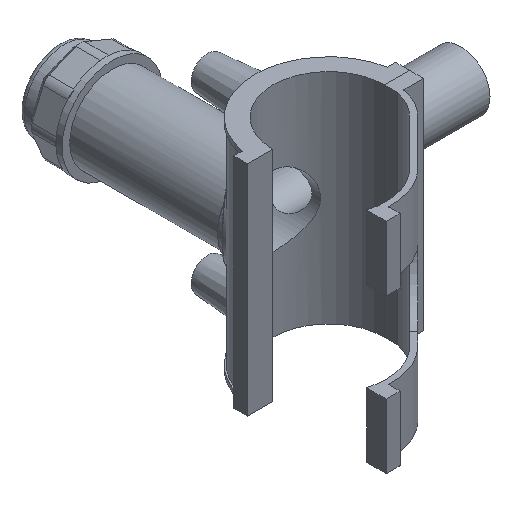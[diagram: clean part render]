
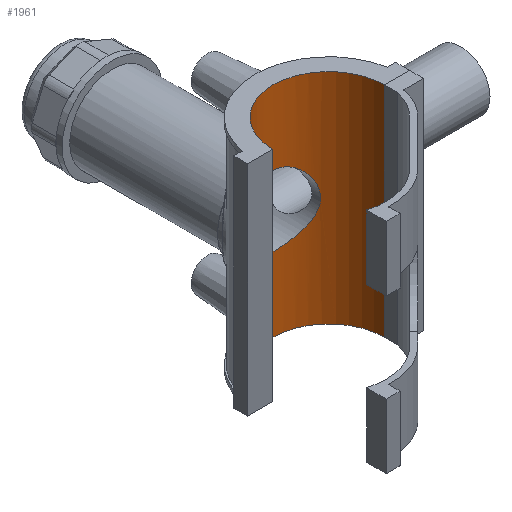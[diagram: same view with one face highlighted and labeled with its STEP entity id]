
A CAD part, isometric view. The second image highlights one B-rep face of the part: STEP entity #1961.
In plain terms, the highlighted cylindrical face has radius 25.55 mm (diameter 51.1 mm), a partial arc.
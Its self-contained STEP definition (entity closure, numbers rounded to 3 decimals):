
#51=FACE_BOUND('',#632,.T.);
#52=B_SPLINE_CURVE_WITH_KNOTS('',3,(#2806,#2807,#2808,#2809,#2810,#2811,
#2812,#2813,#2814,#2815,#2816,#2817,#2818,#2819,#2820,#2821,#2822,#2823,
#2824,#2825,#2826,#2827,#2828,#2829,#2830,#2831,#2832,#2833,#2834,#2835,
#2836,#2837,#2838,#2839,#2840,#2841,#2842,#2843,#2844,#2845,#2846,#2847,
#2848,#2849),.UNSPECIFIED.,.F.,.F.,(4,2,2,2,2,2,2,2,2,2,2,2,2,2,2,2,2,2,
2,2,2,4),(0.,0.315,0.631,1.261,1.574,
1.887,2.2,2.512,2.825,3.138,
3.45,3.763,4.394,4.709,5.024,
5.34,5.655,6.286,6.599,6.911,
7.224,7.537),.UNSPECIFIED.);
#53=B_SPLINE_CURVE_WITH_KNOTS('',3,(#2850,#2851,#2852,#2853,#2854,#2855,
#2856,#2857,#2858,#2859,#2860,#2861,#2862,#2863,#2864,#2865),
 .UNSPECIFIED.,.F.,.F.,(4,2,2,2,2,2,2,4),(7.537,7.849,
8.162,8.475,8.788,9.418,9.734,
10.049),.UNSPECIFIED.);
#179=LINE('',#3774,#336);
#180=LINE('',#3778,#337);
#336=VECTOR('',#2638,10.);
#337=VECTOR('',#2641,10.);
#420=CYLINDRICAL_SURFACE('',#2175,25.55);
#511=FACE_OUTER_BOUND('',#631,.T.);
#631=EDGE_LOOP('',(#1664,#1665,#1666,#1667));
#632=EDGE_LOOP('',(#1668,#1669));
#733=CIRCLE('',#2172,25.55);
#734=CIRCLE('',#2174,25.55);
#753=VERTEX_POINT('',#2803);
#754=VERTEX_POINT('',#2805);
#891=VERTEX_POINT('',#3768);
#893=VERTEX_POINT('',#3772);
#894=VERTEX_POINT('',#3776);
#895=VERTEX_POINT('',#3777);
#945=EDGE_CURVE('',#754,#753,#52,.T.);
#946=EDGE_CURVE('',#753,#754,#53,.T.);
#1154=EDGE_CURVE('',#891,#893,#179,.T.);
#1155=EDGE_CURVE('',#894,#895,#180,.T.);
#1161=EDGE_CURVE('',#891,#895,#733,.T.);
#1162=EDGE_CURVE('',#894,#893,#734,.T.);
#1664=ORIENTED_EDGE('',*,*,#1155,.T.);
#1665=ORIENTED_EDGE('',*,*,#1161,.F.);
#1666=ORIENTED_EDGE('',*,*,#1154,.T.);
#1667=ORIENTED_EDGE('',*,*,#1162,.F.);
#1668=ORIENTED_EDGE('',*,*,#945,.T.);
#1669=ORIENTED_EDGE('',*,*,#946,.T.);
#1961=ADVANCED_FACE('',(#511,#51),#420,.F.);
#2172=AXIS2_PLACEMENT_3D('',#3787,#2649,#2650);
#2174=AXIS2_PLACEMENT_3D('',#3789,#2653,#2654);
#2175=AXIS2_PLACEMENT_3D('',#3792,#2657,#2658);
#2638=DIRECTION('',(0.,0.,-1.));
#2641=DIRECTION('',(0.,0.,1.));
#2649=DIRECTION('center_axis',(0.,0.,-1.));
#2650=DIRECTION('ref_axis',(-1.,0.,0.));
#2653=DIRECTION('center_axis',(0.,0.,1.));
#2654=DIRECTION('ref_axis',(-1.,0.,0.));
#2657=DIRECTION('center_axis',(0.,0.,1.));
#2658=DIRECTION('ref_axis',(-1.,0.,0.));
#2803=CARTESIAN_POINT('',(0.,25.55,-16.097));
#2805=CARTESIAN_POINT('',(-16.097,19.842,0.));
#2806=CARTESIAN_POINT('Ctrl Pts',(-16.097,19.842,0.));
#2807=CARTESIAN_POINT('Ctrl Pts',(-16.097,19.842,1.051));
#2808=CARTESIAN_POINT('Ctrl Pts',(-15.992,19.928,2.122));
#2809=CARTESIAN_POINT('Ctrl Pts',(-15.569,20.261,4.227));
#2810=CARTESIAN_POINT('Ctrl Pts',(-15.25,20.506,5.261));
#2811=CARTESIAN_POINT('Ctrl Pts',(-14.008,21.392,8.212));
#2812=CARTESIAN_POINT('Ctrl Pts',(-12.784,22.177,9.98));
#2813=CARTESIAN_POINT('Ctrl Pts',(-10.687,23.221,12.077));
#2814=CARTESIAN_POINT('Ctrl Pts',(-9.899,23.573,12.736));
#2815=CARTESIAN_POINT('Ctrl Pts',(-8.172,24.225,13.907));
#2816=CARTESIAN_POINT('Ctrl Pts',(-7.233,24.526,14.42));
#2817=CARTESIAN_POINT('Ctrl Pts',(-5.257,25.024,15.251));
#2818=CARTESIAN_POINT('Ctrl Pts',(-4.218,25.222,15.571));
#2819=CARTESIAN_POINT('Ctrl Pts',(-2.111,25.485,15.994));
#2820=CARTESIAN_POINT('Ctrl Pts',(-1.042,25.55,16.097));
#2821=CARTESIAN_POINT('Ctrl Pts',(1.042,25.55,16.097));
#2822=CARTESIAN_POINT('Ctrl Pts',(2.111,25.485,15.994));
#2823=CARTESIAN_POINT('Ctrl Pts',(4.218,25.222,15.571));
#2824=CARTESIAN_POINT('Ctrl Pts',(5.257,25.024,15.251));
#2825=CARTESIAN_POINT('Ctrl Pts',(7.233,24.526,14.42));
#2826=CARTESIAN_POINT('Ctrl Pts',(8.172,24.225,13.907));
#2827=CARTESIAN_POINT('Ctrl Pts',(9.899,23.573,12.736));
#2828=CARTESIAN_POINT('Ctrl Pts',(10.687,23.221,12.077));
#2829=CARTESIAN_POINT('Ctrl Pts',(12.784,22.177,9.98));
#2830=CARTESIAN_POINT('Ctrl Pts',(14.008,21.392,8.212));
#2831=CARTESIAN_POINT('Ctrl Pts',(15.25,20.506,5.261));
#2832=CARTESIAN_POINT('Ctrl Pts',(15.569,20.261,4.227));
#2833=CARTESIAN_POINT('Ctrl Pts',(15.992,19.928,2.122));
#2834=CARTESIAN_POINT('Ctrl Pts',(16.097,19.842,1.051));
#2835=CARTESIAN_POINT('Ctrl Pts',(16.097,19.842,-1.051));
#2836=CARTESIAN_POINT('Ctrl Pts',(15.992,19.928,-2.122));
#2837=CARTESIAN_POINT('Ctrl Pts',(15.569,20.261,-4.227));
#2838=CARTESIAN_POINT('Ctrl Pts',(15.25,20.506,-5.261));
#2839=CARTESIAN_POINT('Ctrl Pts',(14.008,21.392,-8.212));
#2840=CARTESIAN_POINT('Ctrl Pts',(12.784,22.177,-9.98));
#2841=CARTESIAN_POINT('Ctrl Pts',(10.687,23.221,-12.077));
#2842=CARTESIAN_POINT('Ctrl Pts',(9.899,23.573,-12.736));
#2843=CARTESIAN_POINT('Ctrl Pts',(8.172,24.225,-13.907));
#2844=CARTESIAN_POINT('Ctrl Pts',(7.233,24.526,-14.42));
#2845=CARTESIAN_POINT('Ctrl Pts',(5.257,25.024,-15.251));
#2846=CARTESIAN_POINT('Ctrl Pts',(4.218,25.222,-15.571));
#2847=CARTESIAN_POINT('Ctrl Pts',(2.111,25.485,-15.994));
#2848=CARTESIAN_POINT('Ctrl Pts',(1.042,25.55,-16.097));
#2849=CARTESIAN_POINT('Ctrl Pts',(0.,25.55,-16.097));
#2850=CARTESIAN_POINT('Ctrl Pts',(0.,25.55,-16.097));
#2851=CARTESIAN_POINT('Ctrl Pts',(-1.042,25.55,-16.097));
#2852=CARTESIAN_POINT('Ctrl Pts',(-2.111,25.485,-15.994));
#2853=CARTESIAN_POINT('Ctrl Pts',(-4.218,25.222,-15.571));
#2854=CARTESIAN_POINT('Ctrl Pts',(-5.257,25.024,-15.251));
#2855=CARTESIAN_POINT('Ctrl Pts',(-7.233,24.526,-14.42));
#2856=CARTESIAN_POINT('Ctrl Pts',(-8.172,24.225,-13.907));
#2857=CARTESIAN_POINT('Ctrl Pts',(-9.899,23.573,-12.736));
#2858=CARTESIAN_POINT('Ctrl Pts',(-10.687,23.221,-12.077));
#2859=CARTESIAN_POINT('Ctrl Pts',(-12.784,22.177,-9.98));
#2860=CARTESIAN_POINT('Ctrl Pts',(-14.008,21.392,-8.212));
#2861=CARTESIAN_POINT('Ctrl Pts',(-15.25,20.506,-5.261));
#2862=CARTESIAN_POINT('Ctrl Pts',(-15.569,20.261,-4.227));
#2863=CARTESIAN_POINT('Ctrl Pts',(-15.992,19.928,-2.122));
#2864=CARTESIAN_POINT('Ctrl Pts',(-16.097,19.842,-1.051));
#2865=CARTESIAN_POINT('Ctrl Pts',(-16.097,19.842,0.));
#3768=CARTESIAN_POINT('',(-25.55,0.05,50.038));
#3772=CARTESIAN_POINT('',(-25.55,0.05,-50.038));
#3774=CARTESIAN_POINT('',(-25.55,0.05,0.));
#3776=CARTESIAN_POINT('',(25.55,0.05,-50.038));
#3777=CARTESIAN_POINT('',(25.55,0.05,50.038));
#3778=CARTESIAN_POINT('',(25.55,0.05,0.));
#3787=CARTESIAN_POINT('Origin',(0.,0.,50.038));
#3789=CARTESIAN_POINT('Origin',(0.,0.,-50.038));
#3792=CARTESIAN_POINT('Origin',(0.,0.,0.));
